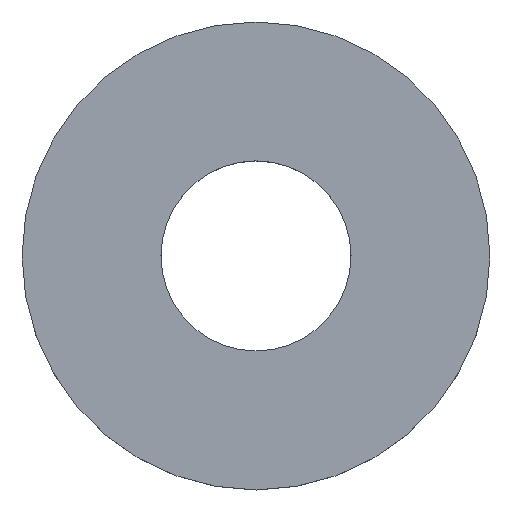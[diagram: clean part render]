
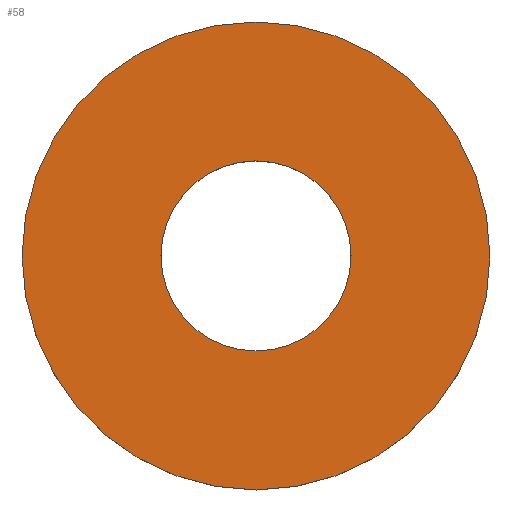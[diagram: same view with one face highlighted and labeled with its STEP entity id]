
A CAD part, top view. The second image highlights one B-rep face of the part: STEP entity #58.
In plain terms, the highlighted planar face has unit normal (0, 0, 1).
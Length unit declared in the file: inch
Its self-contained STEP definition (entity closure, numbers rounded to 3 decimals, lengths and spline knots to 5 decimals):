
#16=PLANE('',#68);
#20=FACE_BOUND('',#32,.T.);
#24=FACE_OUTER_BOUND('',#31,.T.);
#31=EDGE_LOOP('',(#51));
#32=EDGE_LOOP('',(#52));
#33=CIRCLE('',#62,0.40625);
#35=CIRCLE('',#65,1.);
#37=VERTEX_POINT('',#89);
#39=VERTEX_POINT('',#94);
#41=EDGE_CURVE('',#37,#37,#33,.T.);
#43=EDGE_CURVE('',#39,#39,#35,.T.);
#51=ORIENTED_EDGE('',*,*,#43,.T.);
#52=ORIENTED_EDGE('',*,*,#41,.T.);
#58=ADVANCED_FACE('',(#24,#20),#16,.T.);
#62=AXIS2_PLACEMENT_3D('',#90,#73,#74);
#65=AXIS2_PLACEMENT_3D('',#95,#79,#80);
#68=AXIS2_PLACEMENT_3D('',#99,#85,#86);
#73=DIRECTION('center_axis',(0.,0.,-1.));
#74=DIRECTION('ref_axis',(-1.,0.,0.));
#79=DIRECTION('center_axis',(0.,0.,1.));
#80=DIRECTION('ref_axis',(-1.,0.,0.));
#85=DIRECTION('center_axis',(0.,0.,1.));
#86=DIRECTION('ref_axis',(1.,0.,0.));
#89=CARTESIAN_POINT('',(0.40625,0.,0.25));
#90=CARTESIAN_POINT('Origin',(0.,0.,0.25));
#94=CARTESIAN_POINT('',(1.,0.,0.25));
#95=CARTESIAN_POINT('Origin',(0.,0.,0.25));
#99=CARTESIAN_POINT('Origin',(0.,0.,
0.25));
